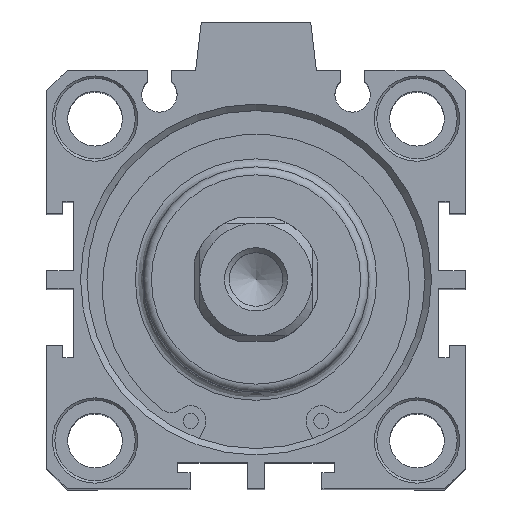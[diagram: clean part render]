
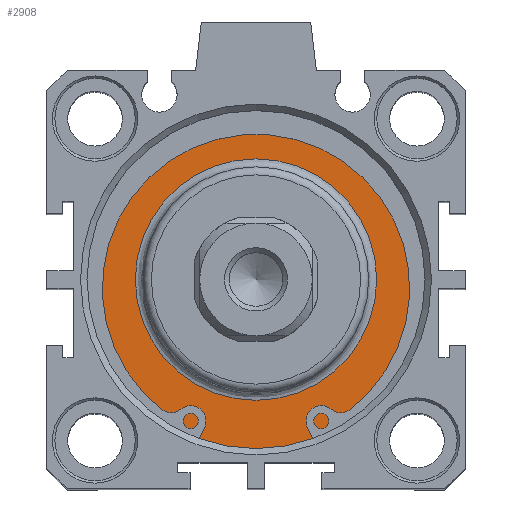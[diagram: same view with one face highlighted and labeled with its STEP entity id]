
A CAD part, top view. The second image highlights one B-rep face of the part: STEP entity #2908.
In plain terms, the highlighted planar face has unit normal (0, 0, 1).
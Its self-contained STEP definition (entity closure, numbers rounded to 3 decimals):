
#2857=CARTESIAN_POINT('',(0.598,16.555,82.4));
#2858=VERTEX_POINT('',#2857);
#2859=CARTESIAN_POINT('',(0.598,1.555,82.4));
#2860=DIRECTION('',(0.0,0.0,1.0));
#2861=DIRECTION('',(0.0,-1.0,0.0));
#2862=AXIS2_PLACEMENT_3D('',#2859,#2860,#2861);
#2863=CIRCLE('',#2862,15.0);
#2864=EDGE_CURVE('',#2858,#2858,#2863,.T.);
#2889=CARTESIAN_POINT('',(0.598,19.055,82.4));
#2890=DIRECTION('',(0.0,0.0,1.0));
#2891=DIRECTION('',(1.0,0.0,0.0));
#2892=AXIS2_PLACEMENT_3D('',#2889,#2890,#2891);
#2893=PLANE('',#2892);
#2894=CARTESIAN_POINT('',(0.598,22.555,82.4));
#2895=VERTEX_POINT('',#2894);
#2896=CARTESIAN_POINT('',(0.598,1.555,82.4));
#2897=DIRECTION('',(0.0,0.0,-1.0));
#2898=DIRECTION('',(0.0,1.0,0.0));
#2899=AXIS2_PLACEMENT_3D('',#2896,#2897,#2898);
#2900=CIRCLE('',#2899,21.);
#2901=EDGE_CURVE('',#2895,#2895,#2900,.T.);
#2902=ORIENTED_EDGE('',*,*,#2901,.F.);
#2903=EDGE_LOOP('',(#2902));
#2904=FACE_OUTER_BOUND('',#2903,.T.);
#2905=ORIENTED_EDGE('',*,*,#2864,.F.);
#2906=EDGE_LOOP('',(#2905));
#2907=FACE_BOUND('',#2906,.T.);
#2908=ADVANCED_FACE('',(#2904,#2907),#2893,.T.);
